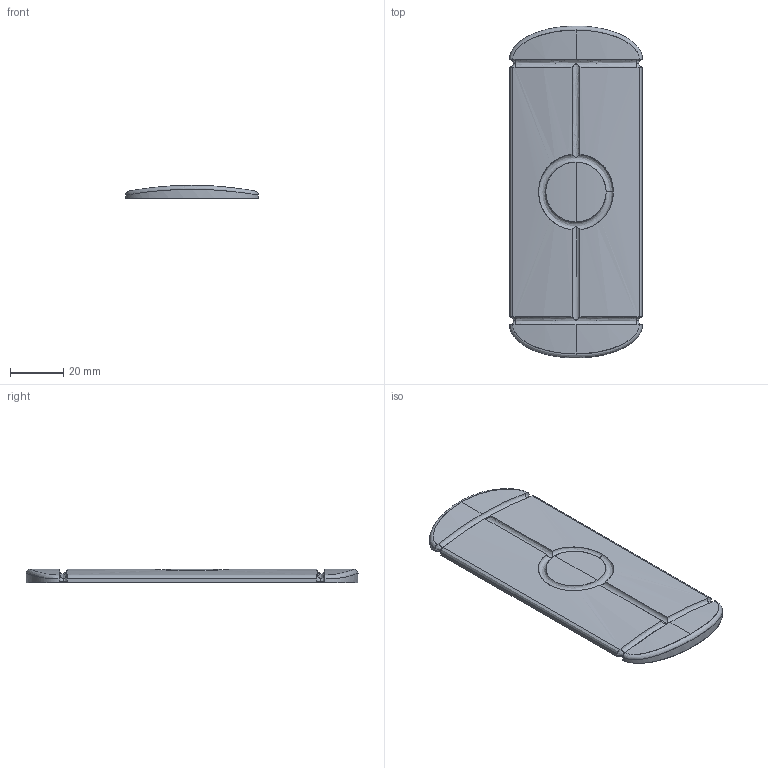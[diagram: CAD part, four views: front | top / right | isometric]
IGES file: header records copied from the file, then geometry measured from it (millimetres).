
Start section: C
Global section: file name: 8036.igs; native system: By Siemens PLM Incorporated; preprocessor: XPlus GENERIC/IGES 16.0.42; author: Author; organization: Title; date: 20231128.133458; units: millimetre
Bounding box: 50 x 125 x 5.01 mm (x, y, z)
Surface area: 14600.5 mm2 (no closed solid volume)
Topology: 0 solids, 0 shells, 69 faces, 375 edges, 373 vertices
Faces by surface type: bspline 69
